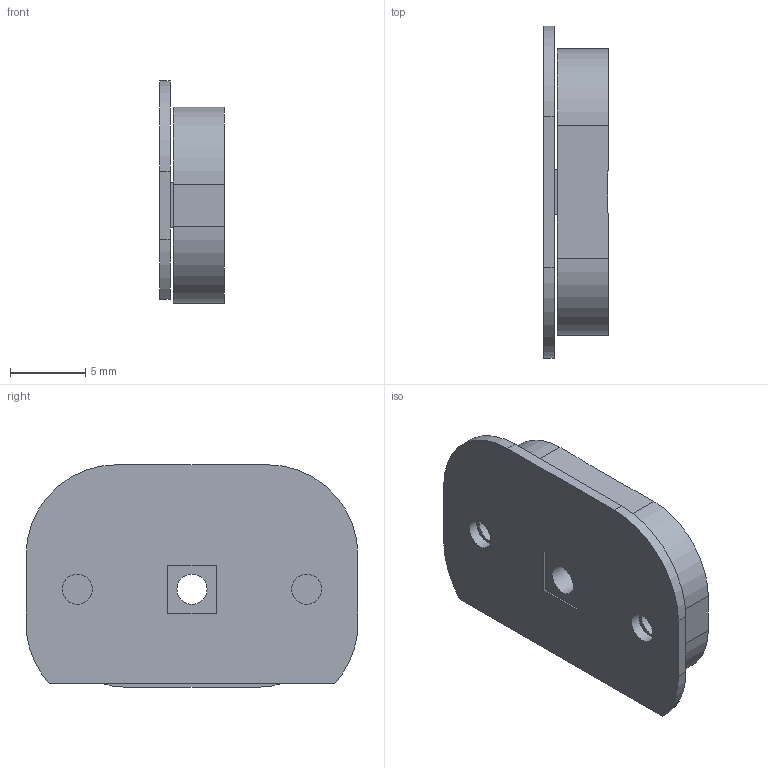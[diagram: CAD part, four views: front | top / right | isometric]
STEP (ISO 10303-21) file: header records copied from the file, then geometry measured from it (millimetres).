
FILE_DESCRIPTION(('Open CASCADE Model'),'2;1');
FILE_NAME('Open CASCADE Shape Model','2026-09-06T12:00:15',('Author'),( 'Open CASCADE'),'Open CASCADE STEP processor 7.7','Open CASCADE 7.7' ,'Unknown');
FILE_SCHEMA(('AUTOMOTIVE_DESIGN { 1 0 10303 214 1 1 1 1 }'));
Length unit declared in the file: millimetre
Products named in the file (1): Open CASCADE STEP translator 7.7 2
Bounding box: 4.3 x 22 x 14.75 mm (x, y, z)
Volume: 796.2 mm3; surface area: 1342.5 mm2
Topology: 1 solids, 1 shells, 48 faces, 123 edges, 82 vertices
Faces by surface type: plane 29, cylinder 17, sphere 2
Full cylindrical faces by diameter (mm): 2 x5
Entity records: 3252 total; most frequent: CARTESIAN_POINT 786, DIRECTION 457, LINE 253, VECTOR 253, ORIENTED_EDGE 246, PCURVE 246, DEFINITIONAL_REPRESENTATION 246, EDGE_CURVE 123
